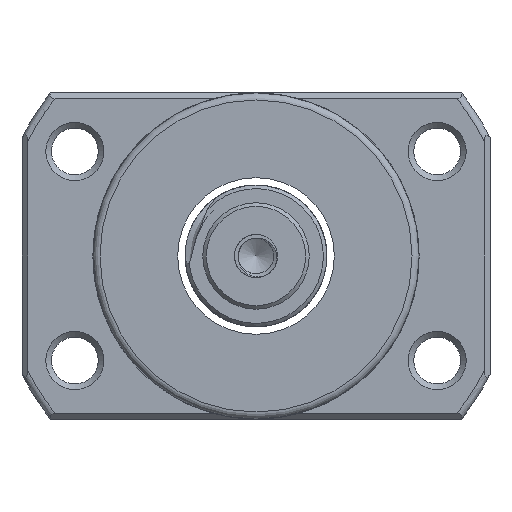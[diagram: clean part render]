
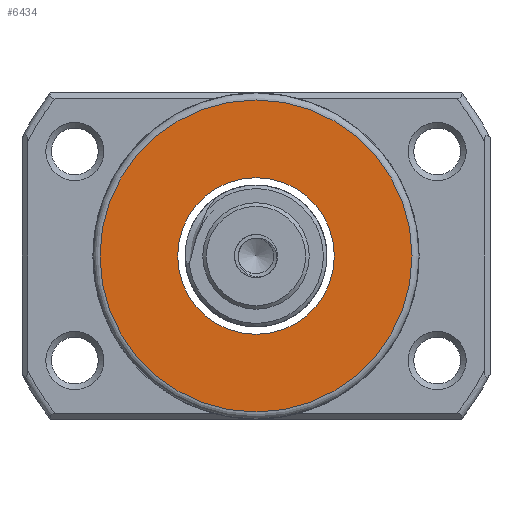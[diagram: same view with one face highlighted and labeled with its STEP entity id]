
A CAD part, left-side view. The second image highlights one B-rep face of the part: STEP entity #6434.
In plain terms, the highlighted planar face has unit normal (-1, 0, 0).
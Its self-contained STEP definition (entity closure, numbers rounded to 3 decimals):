
#24 = DIRECTION ( 'NONE',  ( 0., 0., 1. ) ) ;
#787 = EDGE_LOOP ( 'NONE', ( #1180 ) ) ;
#958 = CARTESIAN_POINT ( 'NONE',  ( -53.324, 0., 11.05 ) ) ;
#1180 = ORIENTED_EDGE ( 'NONE', *, *, #19631, .F. ) ;
#2405 = FACE_OUTER_BOUND ( 'NONE', #17273, .T. ) ;
#2550 = CIRCLE ( 'NONE', #6478, 22. ) ;
#4124 = FACE_BOUND ( 'NONE', #787, .T. ) ;
#5468 = PLANE ( 'NONE',  #14292 ) ;
#5541 = EDGE_CURVE ( 'NONE', #11774, #11774, #2550, .T. ) ;
#6434 = ADVANCED_FACE ( 'NONE', ( #2405, #4124 ), #5468, .T. ) ;
#6478 = AXIS2_PLACEMENT_3D ( 'NONE', #7766, #13991, #24 ) ;
#7766 = CARTESIAN_POINT ( 'NONE',  ( -53.324, 0., 0. ) ) ;
#8111 = DIRECTION ( 'NONE',  ( -1., 0., 0. ) ) ;
#8318 = CARTESIAN_POINT ( 'NONE',  ( -53.324, 0., 22. ) ) ;
#8895 = ORIENTED_EDGE ( 'NONE', *, *, #5541, .T. ) ;
#10077 = DIRECTION ( 'NONE',  ( 0., 0., 1. ) ) ;
#10878 = CARTESIAN_POINT ( 'NONE',  ( -53.324, 0., 0. ) ) ;
#11696 = CARTESIAN_POINT ( 'NONE',  ( -53.324, 11.05, 0. ) ) ;
#11774 = VERTEX_POINT ( 'NONE', #8318 ) ;
#12322 = CIRCLE ( 'NONE', #14607, 11.05 ) ;
#13326 = DIRECTION ( 'NONE',  ( -1., 0., 0. ) ) ;
#13991 = DIRECTION ( 'NONE',  ( -1., 0., 0. ) ) ;
#14292 = AXIS2_PLACEMENT_3D ( 'NONE', #11696, #13326, #10077 ) ;
#14607 = AXIS2_PLACEMENT_3D ( 'NONE', #10878, #8111, #18832 ) ;
#14930 = VERTEX_POINT ( 'NONE', #958 ) ;
#17273 = EDGE_LOOP ( 'NONE', ( #8895 ) ) ;
#18832 = DIRECTION ( 'NONE',  ( 0., 0., 1. ) ) ;
#19631 = EDGE_CURVE ( 'NONE', #14930, #14930, #12322, .T. ) ;
